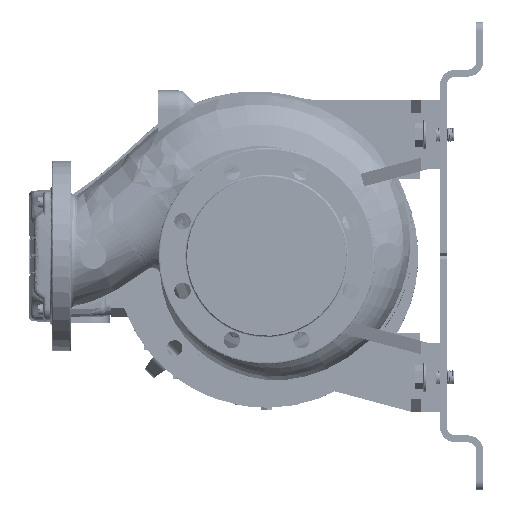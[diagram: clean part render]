
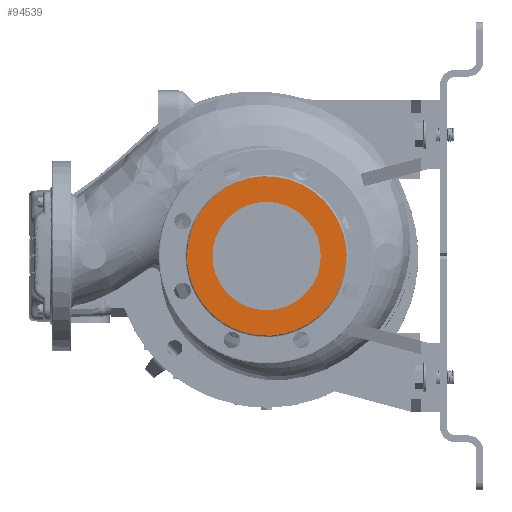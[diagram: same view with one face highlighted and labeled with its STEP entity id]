
A CAD part, left-side view. The second image highlights one B-rep face of the part: STEP entity #94539.
In plain terms, the highlighted planar face has unit normal (-1, 0, 0).
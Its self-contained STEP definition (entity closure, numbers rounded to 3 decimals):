
#4928 = DIRECTION ( 'NONE',  ( -1., 0., 0. ) ) ;
#6831 = FACE_BOUND ( 'NONE', #149158, .T. ) ;
#7298 = CARTESIAN_POINT ( 'NONE',  ( -125., 80.624, -44.798 ) ) ;
#9698 = CARTESIAN_POINT ( 'NONE',  ( -125., -18.064, -90.814 ) ) ;
#10935 = CARTESIAN_POINT ( 'NONE',  ( -125., 43.438, -81.267 ) ) ;
#12128 = CARTESIAN_POINT ( 'NONE',  ( -125., -65.473, 65.473 ) ) ;
#14124 = EDGE_CURVE ( 'NONE', #182328, #125012, #46560, .T. ) ;
#24763 = DIRECTION ( 'NONE',  ( 0., 0., 1. ) ) ;
#24971 = CARTESIAN_POINT ( 'NONE',  ( -125., 85.133, 35.264 ) ) ;
#29505 = CARTESIAN_POINT ( 'NONE',  ( -125., 51.195, 76.618 ) ) ;
#31413 = EDGE_CURVE ( 'NONE', #125012, #182328, #150345, .T. ) ;
#32924 = CARTESIAN_POINT ( 'NONE',  ( -125., 0., -62.5 ) ) ;
#38080 = ORIENTED_EDGE ( 'NONE', *, *, #154301, .F. ) ;
#44806 = CARTESIAN_POINT ( 'NONE',  ( -125., -90.814, 18.064 ) ) ;
#45719 = CARTESIAN_POINT ( 'NONE',  ( -125., 18.062, -90.815 ) ) ;
#46560 = B_SPLINE_CURVE_WITH_KNOTS ( 'NONE', 3,
 ( #238906, #99353, #199299, #136531, #49340, #24971, #214590, #124931, #181922, #144767, #29505, #87749, #200503, #192288, #212105, #156350, #139008, #62157, #12128, #173736, #106345, #44806, #194759, #231886 ),
 .UNSPECIFIED., .F., .F.,
 ( 4, 1, 1, 1, 1, 1, 1, 1, 1, 1, 1, 1, 1, 1, 1, 1, 1, 1, 1, 1, 1, 4 ),
 ( 0., 0.009, 0.018, 0.027, 0.036, 0.045, 0.059, 0.073, 0.082, 0.091, 0.1, 0.109, 0.127, 0.145, 0.163, 0.181, 0.199, 0.218, 0.236, 0.254, 0.272, 0.29 ),
 .UNSPECIFIED. ) ;
#48150 = CARTESIAN_POINT ( 'NONE',  ( -125., 85.133, -35.264 ) ) ;
#49340 = CARTESIAN_POINT ( 'NONE',  ( -125., 88.18, 26.749 ) ) ;
#60182 = FACE_OUTER_BOUND ( 'NONE', #70711, .T. ) ;
#62157 = CARTESIAN_POINT ( 'NONE',  ( -125., -51.442, 76.988 ) ) ;
#66579 = VERTEX_POINT ( 'NONE', #32924 ) ;
#67968 = CARTESIAN_POINT ( 'NONE',  ( -125., -85.545, -35.434 ) ) ;
#69809 = CARTESIAN_POINT ( 'NONE',  ( -125., 0., 0. ) ) ;
#70711 = EDGE_LOOP ( 'NONE', ( #232996, #244516 ) ) ;
#85337 = CARTESIAN_POINT ( 'NONE',  ( -125., 0.001, -92.593 ) ) ;
#85954 = DIRECTION ( 'NONE',  ( -1., 0., 0. ) ) ;
#87301 = CIRCLE ( 'NONE', #95271, 62.5 ) ;
#87749 = CARTESIAN_POINT ( 'NONE',  ( -125., 43.438, 81.267 ) ) ;
#87764 = CARTESIAN_POINT ( 'NONE',  ( -125., -90.814, -18.064 ) ) ;
#94539 = ADVANCED_FACE ( 'NONE', ( #6831, #60182 ), #191541, .F. ) ;
#95271 = AXIS2_PLACEMENT_3D ( 'NONE', #136329, #4928, #24763 ) ;
#99353 = CARTESIAN_POINT ( 'NONE',  ( -125., 92., 3.009 ) ) ;
#103922 = CARTESIAN_POINT ( 'NONE',  ( -125., -92., -6.021 ) ) ;
#105127 = CARTESIAN_POINT ( 'NONE',  ( -125., -65.473, -65.473 ) ) ;
#106345 = CARTESIAN_POINT ( 'NONE',  ( -125., -85.545, 35.434 ) ) ;
#106359 = CARTESIAN_POINT ( 'NONE',  ( -125., -35.434, -85.545 ) ) ;
#107334 = CIRCLE ( 'NONE', #150889, 62.5 ) ;
#115955 = DIRECTION ( 'NONE',  ( 1., 0., 0. ) ) ;
#117994 = ORIENTED_EDGE ( 'NONE', *, *, #191229, .F. ) ;
#120848 = DIRECTION ( 'NONE',  ( 0., 0., -1. ) ) ;
#123736 = CARTESIAN_POINT ( 'NONE',  ( -125., 90.377, -17.977 ) ) ;
#124931 = CARTESIAN_POINT ( 'NONE',  ( -125., 74.163, 55.003 ) ) ;
#125012 = VERTEX_POINT ( 'NONE', #154782 ) ;
#136329 = CARTESIAN_POINT ( 'NONE',  ( -125., 0., 0. ) ) ;
#136531 = CARTESIAN_POINT ( 'NONE',  ( -125., 90.377, 17.977 ) ) ;
#139008 = CARTESIAN_POINT ( 'NONE',  ( -125., -35.434, 85.545 ) ) ;
#143591 = CARTESIAN_POINT ( 'NONE',  ( -125., 91.704, -9.033 ) ) ;
#144767 = CARTESIAN_POINT ( 'NONE',  ( -125., 58.458, 71.231 ) ) ;
#149158 = EDGE_LOOP ( 'NONE', ( #117994, #38080 ) ) ;
#150345 = B_SPLINE_CURVE_WITH_KNOTS ( 'NONE', 3,
 ( #179514, #103922, #87764, #67968, #198117, #105127, #180723, #106359, #9698, #85337, #45719, #163371, #10935, #199313, #237717, #181936, #217931, #7298, #48150, #158525, #123736, #143591, #219135, #178326 ),
 .UNSPECIFIED., .F., .F.,
 ( 4, 1, 1, 1, 1, 1, 1, 1, 1, 1, 1, 1, 1, 1, 1, 1, 1, 1, 1, 1, 1, 4 ),
 ( 0., 0.018, 0.036, 0.054, 0.072, 0.091, 0.109, 0.127, 0.145, 0.163, 0.181, 0.19, 0.199, 0.208, 0.217, 0.231, 0.244, 0.254, 0.263, 0.272, 0.281, 0.29 ),
 .UNSPECIFIED. ) ;
#150889 = AXIS2_PLACEMENT_3D ( 'NONE', #69809, #85954, #198725 ) ;
#154301 = EDGE_CURVE ( 'NONE', #66579, #231261, #87301, .T. ) ;
#154782 = CARTESIAN_POINT ( 'NONE',  ( -125., -92., 0. ) ) ;
#156350 = CARTESIAN_POINT ( 'NONE',  ( -125., -18.064, 90.814 ) ) ;
#158525 = CARTESIAN_POINT ( 'NONE',  ( -125., 88.18, -26.749 ) ) ;
#163371 = CARTESIAN_POINT ( 'NONE',  ( -125., 32.548, -86.419 ) ) ;
#165708 = CARTESIAN_POINT ( 'NONE',  ( -125., 92., 0. ) ) ;
#173736 = CARTESIAN_POINT ( 'NONE',  ( -125., -76.988, 51.442 ) ) ;
#178326 = CARTESIAN_POINT ( 'NONE',  ( -125., 92., 0. ) ) ;
#179514 = CARTESIAN_POINT ( 'NONE',  ( -125., -92., 0. ) ) ;
#180723 = CARTESIAN_POINT ( 'NONE',  ( -125., -51.442, -76.988 ) ) ;
#181922 = CARTESIAN_POINT ( 'NONE',  ( -125., 66.273, 64.149 ) ) ;
#181936 = CARTESIAN_POINT ( 'NONE',  ( -125., 66.273, -64.149 ) ) ;
#182328 = VERTEX_POINT ( 'NONE', #165708 ) ;
#191229 = EDGE_CURVE ( 'NONE', #231261, #66579, #107334, .T. ) ;
#191541 = PLANE ( 'NONE',  #235920 ) ;
#192288 = CARTESIAN_POINT ( 'NONE',  ( -125., 18.062, 90.815 ) ) ;
#194759 = CARTESIAN_POINT ( 'NONE',  ( -125., -92., 6.021 ) ) ;
#198117 = CARTESIAN_POINT ( 'NONE',  ( -125., -76.988, -51.442 ) ) ;
#198725 = DIRECTION ( 'NONE',  ( 0., 0., 1. ) ) ;
#199299 = CARTESIAN_POINT ( 'NONE',  ( -125., 91.704, 9.033 ) ) ;
#199313 = CARTESIAN_POINT ( 'NONE',  ( -125., 51.195, -76.618 ) ) ;
#200503 = CARTESIAN_POINT ( 'NONE',  ( -125., 32.548, 86.419 ) ) ;
#212105 = CARTESIAN_POINT ( 'NONE',  ( -125., 0.001, 92.593 ) ) ;
#213844 = CARTESIAN_POINT ( 'NONE',  ( -125., -93.104, 93.203 ) ) ;
#214590 = CARTESIAN_POINT ( 'NONE',  ( -125., 80.624, 44.798 ) ) ;
#217931 = CARTESIAN_POINT ( 'NONE',  ( -125., 74.163, -55.003 ) ) ;
#219135 = CARTESIAN_POINT ( 'NONE',  ( -125., 92., -3.009 ) ) ;
#231261 = VERTEX_POINT ( 'NONE', #240091 ) ;
#231886 = CARTESIAN_POINT ( 'NONE',  ( -125., -92., 0. ) ) ;
#232996 = ORIENTED_EDGE ( 'NONE', *, *, #14124, .F. ) ;
#235920 = AXIS2_PLACEMENT_3D ( 'NONE', #213844, #115955, #120848 ) ;
#237717 = CARTESIAN_POINT ( 'NONE',  ( -125., 58.458, -71.231 ) ) ;
#238906 = CARTESIAN_POINT ( 'NONE',  ( -125., 92., 0. ) ) ;
#240091 = CARTESIAN_POINT ( 'NONE',  ( -125., 0., 62.5 ) ) ;
#244516 = ORIENTED_EDGE ( 'NONE', *, *, #31413, .F. ) ;
